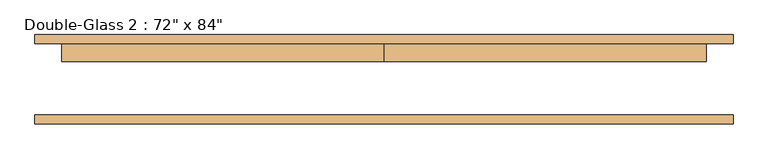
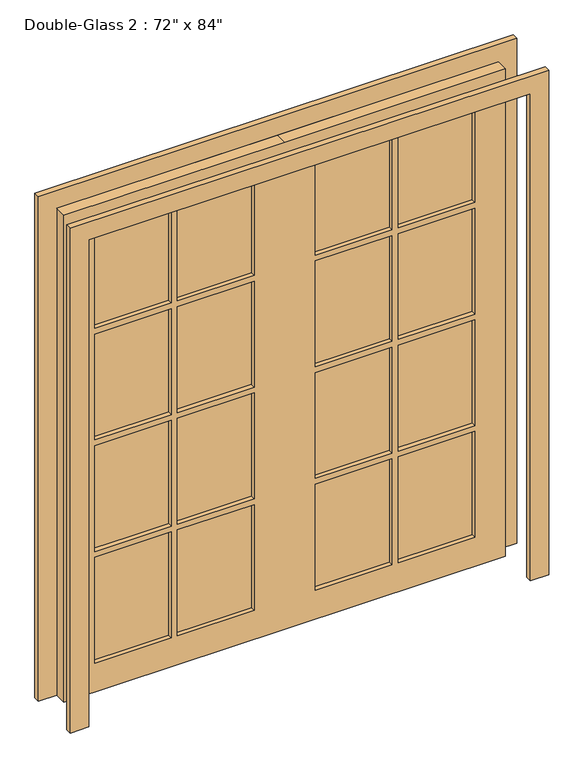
"""IFC4 building model written with IfcOpenShell, lengths in millimetres: door geometry."""

import ifcopenshell
import ifcopenshell.guid

model = None  # the IFC model being written
_history = None  # IfcOwnerHistory: only IFC2X3 demands one
_inside = {}  # id of a spatial element -> (the spatial element, [elements in it])
_under = {}  # id of a project, library or spatial element -> (it, [spatial elements below it])
_declared = {}  # id of a project -> (the project, [libraries it declares])
_typed = {}  # id of a type object -> (the type object, [elements of that type])
_made_of = {}  # id of a material, layer set ... -> (it, [elements and type objects made of it])


def new_model(schema):
    """Start an empty IFC model of exactly this schema.

    Asked for "IFC4X3", IfcOpenShell would pick the latest addendum, in which some entities
    have other attributes; the version numbers below select the first issue.
    IFC2X3 requires an IfcOwnerHistory on every rooted entity: one is made here for all.
    """
    global model, _history
    if schema == "IFC4X3":
        model = ifcopenshell.file(schema_version=(4, 3, 0, 0))
    else:
        model = ifcopenshell.file(schema=schema)
    _inside.clear()
    _under.clear()
    _declared.clear()
    _typed.clear()
    _made_of.clear()
    _history = None
    if model.schema == "IFC2X3":
        org = make("IfcOrganization", Name="unknown")
        user = make(
            "IfcPersonAndOrganization",
            ThePerson=make("IfcPerson", FamilyName="unknown"),
            TheOrganization=org,
        )
        app = make(
            "IfcApplication",
            ApplicationDeveloper=org,
            Version="unknown",
            ApplicationFullName="unknown",
            ApplicationIdentifier="unknown",
        )
        _history = make(
            "IfcOwnerHistory",
            OwningUser=user,
            OwningApplication=app,
            ChangeAction="ADDED",
            CreationDate=0,
        )
    return model


def make(cls, **values):
    """One entity of the class cls with the attributes given. An attribute that is None is left unset."""
    return model.create_entity(
        cls, **{name: value for name, value in values.items() if value is not None}
    )


def rooted(cls, **values):
    """An entity with a GlobalId (a new one), such as an element, a storey or a relation."""
    return make(cls, GlobalId=ifcopenshell.guid.new(), OwnerHistory=_history, **values)


def si_unit(unit_type, name, prefix=None):
    """IfcSIUnit, for example si_unit("LENGTHUNIT", "METRE", prefix="MILLI")."""
    return make("IfcSIUnit", UnitType=unit_type, Prefix=prefix, Name=name)


def assignment(units):
    """IfcUnitAssignment: the units of a project."""
    return None if units is None else make("IfcUnitAssignment", Units=units)


def point(xyz):
    """IfcCartesianPoint."""
    return None if xyz is None else make("IfcCartesianPoint", Coordinates=xyz)


def direction(xyz):
    """IfcDirection."""
    return None if xyz is None else make("IfcDirection", DirectionRatios=xyz)


def frame(location, z_axis=None, x_axis=None):
    """IfcAxis2Placement3D, a coordinate frame: its origin and axes. An axis left out is left unset."""
    return make(
        "IfcAxis2Placement3D",
        Location=point(location),
        Axis=direction(z_axis),
        RefDirection=direction(x_axis),
    )


def origin():
    """The frame at (0, 0, 0) with its axes left unset."""
    return frame((0.0, 0.0, 0.0))


def place(relative_to, where):
    """IfcLocalPlacement: puts the frame where relative to a parent placement (None: the world)."""
    return make(
        "IfcLocalPlacement", PlacementRelTo=relative_to, RelativePlacement=where
    )


def context(
    kind, dimensions, precision=None, world=None, true_north=None, identifier=None
):
    """IfcGeometricRepresentationContext, for example the 3D "Model" context."""
    return make(
        "IfcGeometricRepresentationContext",
        ContextIdentifier=identifier,
        ContextType=kind,
        CoordinateSpaceDimension=dimensions,
        Precision=precision,
        WorldCoordinateSystem=world,
        TrueNorth=true_north,
    )


def project(units=None, contexts=None):
    """IfcProject with its units and contexts."""
    return rooted(
        "IfcProject",
        Name="project",
        RepresentationContexts=contexts,
        UnitsInContext=assignment(units),
    )


def spatial(cls, under=None, at=None, **own):
    """A site, building, storey or space (cls), placed at a placement, below another one or the project."""
    s = rooted(cls, ObjectPlacement=at, **own)
    if under is not None:
        _under.setdefault(under.id(), (under, []))[1].append(s)
    return s


def polyline(points):
    """IfcPolyline through the points."""
    return make("IfcPolyline", Points=[point(p) for p in points])


def outline(outer, holes=None, kind="AREA"):
    """IfcArbitraryClosedProfileDef: a profile drawn as a closed curve; with holes, ...WithVoids."""
    if holes is None:
        return make("IfcArbitraryClosedProfileDef", ProfileType=kind, OuterCurve=outer)
    return make(
        "IfcArbitraryProfileDefWithVoids",
        ProfileType=kind,
        OuterCurve=outer,
        InnerCurves=holes,
    )


def extrude(swept, where, along, depth):
    """IfcExtrudedAreaSolid: the profile swept, set in the frame where, extruded along a direction by depth."""
    return make(
        "IfcExtrudedAreaSolid",
        SweptArea=swept,
        Position=where,
        ExtrudedDirection=direction(along),
        Depth=depth,
    )


def shape(context_of_items, identifier, shape_type, items):
    """IfcShapeRepresentation: the items that make up one representation, for example the "Body"."""
    return make(
        "IfcShapeRepresentation",
        ContextOfItems=context_of_items,
        RepresentationIdentifier=identifier,
        RepresentationType=shape_type,
        Items=items,
    )


def source(mapping_origin, context_of_items, identifier, shape_type, items):
    """IfcRepresentationMap: a shape defined once, which mapped items show again and again."""
    return make(
        "IfcRepresentationMap",
        MappingOrigin=mapping_origin,
        MappedRepresentation=shape(context_of_items, identifier, shape_type, items),
    )


def transform(
    local_origin,
    x_axis=None,
    y_axis=None,
    z_axis=None,
    scale=None,
    scale2=None,
    scale3=None,
    uniform=True,
):
    """IfcCartesianTransformationOperator3D, or its non-uniform kind. x_axis, y_axis, z_axis: its Axis1, 2, 3."""
    if uniform:
        return make(
            "IfcCartesianTransformationOperator3D",
            Axis1=direction(x_axis),
            Axis2=direction(y_axis),
            LocalOrigin=point(local_origin),
            Scale=scale,
            Axis3=direction(z_axis),
        )
    return make(
        "IfcCartesianTransformationOperator3DnonUniform",
        Axis1=direction(x_axis),
        Axis2=direction(y_axis),
        LocalOrigin=point(local_origin),
        Scale=scale,
        Axis3=direction(z_axis),
        Scale2=scale2,
        Scale3=scale3,
    )


def mapped(mapping_source, mapping_target):
    """IfcMappedItem: shows the shape of a source again, moved by a transform."""
    return make(
        "IfcMappedItem", MappingSource=mapping_source, MappingTarget=mapping_target
    )


def made_of(thing, what):
    """Note that an element or type object is made of a material, layer set ...; save() writes the relation."""
    if what is not None:
        _made_of.setdefault(what.id(), (what, []))[1].append(thing)
    return thing


def element(
    cls,
    number,
    at=None,
    inside=None,
    cuts=None,
    type_object=None,
    material=None,
    context=None,
    identifier="Body",
    shape_type=None,
    held_by="IfcProductDefinitionShape",
    body=None,
    shapes=None,
    **own,
):
    """One element of the class cls, such as IfcWall. Its Tag is "e" and its number.

    at: its placement. inside: the storey or other place that contains it. cuts: it is an
    opening in that element (IfcRelVoidsElement). A single representation is given by context,
    identifier, shape_type and body (its items); several are given by shapes. held_by: the class
    of the entity that holds the representations. save() writes the other relations.
    """
    e = rooted(cls, Tag="e%d" % number, ObjectPlacement=at, **own)
    if body is not None:
        shapes = [shape(context, identifier, shape_type, body)]
    if shapes is not None:
        e.Representation = make(held_by, Representations=shapes)
    if inside is not None:
        _inside.setdefault(inside.id(), (inside, []))[1].append(e)
    if cuts is not None:
        rooted(
            "IfcRelVoidsElement", RelatingBuildingElement=cuts, RelatedOpeningElement=e
        )
    if type_object is not None:
        _typed.setdefault(type_object.id(), (type_object, []))[1].append(e)
    return made_of(e, material)


def aggregate(whole, parts):
    """IfcRelAggregates: a whole, such as a stair, and the parts it consists of."""
    return rooted("IfcRelAggregates", RelatingObject=whole, RelatedObjects=parts)


def save(model, path):
    """Write the relations noted so far, then the file.

    IfcRelAggregates (storeys below a building ...), IfcRelContainedInSpatialStructure (elements
    in a storey), IfcRelDefinesByType, IfcRelAssociatesMaterial and IfcRelDeclares: one each for
    every whole, place, type object, material and project.
    """
    for whole, parts in _under.values():
        aggregate(whole, parts)
    for where, things in _inside.values():
        rooted(
            "IfcRelContainedInSpatialStructure",
            RelatedElements=things,
            RelatingStructure=where,
        )
    for kind, things in _typed.values():
        rooted("IfcRelDefinesByType", RelatedObjects=things, RelatingType=kind)
    for what, things in _made_of.values():
        rooted("IfcRelAssociatesMaterial", RelatedObjects=things, RelatingMaterial=what)
    for by, libraries in _declared.values():
        rooted("IfcRelDeclares", RelatingContext=by, RelatedDefinitions=libraries)
    model.write(path)


def door_62197d2a(model_context):
    return source(origin(), model_context, "Body", "SweptSolid", [
        extrude(outline(polyline([(469.9, 82.55), (787.4, 82.55), (787.4, 69.85), (469.9, 69.85), (469.9, 82.55)])), frame((0.0, 0.0, 1593.85), z_axis=(0.0, 0.0, 1.0), x_axis=(1.0, 0.0, 0.0)), (0.0, 0.0, 1.0), 463.55),
        extrude(outline(polyline([(127.0, 82.55), (444.5, 82.55), (444.5, 69.85), (127.0, 69.85), (127.0, 82.55)])), frame((0.0, 0.0, 1593.85), z_axis=(0.0, 0.0, 1.0), x_axis=(1.0, 0.0, 0.0)), (0.0, 0.0, 1.0), 463.55),
        extrude(outline(polyline([(-444.5, 82.55), (-127.0, 82.55), (-127.0, 69.85), (-444.5, 69.85), (-444.5, 82.55)])), frame((0.0, 0.0, 1593.85), z_axis=(0.0, 0.0, 1.0), x_axis=(1.0, 0.0, 0.0)), (0.0, 0.0, 1.0), 463.55),
        extrude(outline(polyline([(-787.4, 82.55), (-469.9, 82.55), (-469.9, 69.85), (-787.4, 69.85), (-787.4, 82.55)])), frame((0.0, 0.0, 1593.85), z_axis=(0.0, 0.0, 1.0), x_axis=(1.0, 0.0, 0.0)), (0.0, 0.0, 1.0), 463.55),
        extrude(outline(polyline([(-787.4, 82.55), (-469.9, 82.55), (-469.9, 69.85), (-787.4, 69.85), (-787.4, 82.55)])), frame((0.0, 0.0, 1104.9), z_axis=(0.0, 0.0, 1.0), x_axis=(1.0, 0.0, 0.0)), (0.0, 0.0, 1.0), 463.55),
        extrude(outline(polyline([(-444.5, 82.55), (-127.0, 82.55), (-127.0, 69.85), (-444.5, 69.85), (-444.5, 82.55)])), frame((0.0, 0.0, 1104.9), z_axis=(0.0, 0.0, 1.0), x_axis=(1.0, 0.0, 0.0)), (0.0, 0.0, 1.0), 463.55),
        extrude(outline(polyline([(127.0, 82.55), (444.5, 82.55), (444.5, 69.85), (127.0, 69.85), (127.0, 82.55)])), frame((0.0, 0.0, 1104.9), z_axis=(0.0, 0.0, 1.0), x_axis=(1.0, 0.0, 0.0)), (0.0, 0.0, 1.0), 463.55),
        extrude(outline(polyline([(469.9, 82.55), (787.4, 82.55), (787.4, 69.85), (469.9, 69.85), (469.9, 82.55)])), frame((0.0, 0.0, 1104.9), z_axis=(0.0, 0.0, 1.0), x_axis=(1.0, 0.0, 0.0)), (0.0, 0.0, 1.0), 463.55),
        extrude(outline(polyline([(469.9, 82.55), (787.4, 82.55), (787.4, 69.85), (469.9, 69.85), (469.9, 82.55)])), frame((0.0, 0.0, 615.95), z_axis=(0.0, 0.0, 1.0), x_axis=(1.0, 0.0, 0.0)), (0.0, 0.0, 1.0), 463.55),
        extrude(outline(polyline([(127.0, 82.55), (444.5, 82.55), (444.5, 69.85), (127.0, 69.85), (127.0, 82.55)])), frame((0.0, 0.0, 615.95), z_axis=(0.0, 0.0, 1.0), x_axis=(1.0, 0.0, 0.0)), (0.0, 0.0, 1.0), 463.55),
        extrude(outline(polyline([(-444.5, 82.55), (-127.0, 82.55), (-127.0, 69.85), (-444.5, 69.85), (-444.5, 82.55)])), frame((0.0, 0.0, 615.95), z_axis=(0.0, 0.0, 1.0), x_axis=(1.0, 0.0, 0.0)), (0.0, 0.0, 1.0), 463.55),
        extrude(outline(polyline([(-787.4, 82.55), (-469.9, 82.55), (-469.9, 69.85), (-787.4, 69.85), (-787.4, 82.55)])), frame((0.0, 0.0, 615.95), z_axis=(0.0, 0.0, 1.0), x_axis=(1.0, 0.0, 0.0)), (0.0, 0.0, 1.0), 463.55),
        extrude(outline(polyline([(469.9, 82.55), (787.4, 82.55), (787.4, 69.85), (469.9, 69.85), (469.9, 82.55)])), frame((0.0, 0.0, 127.0), z_axis=(0.0, 0.0, 1.0), x_axis=(1.0, 0.0, 0.0)), (0.0, 0.0, 1.0), 463.55),
        extrude(outline(polyline([(127.0, 82.55), (444.5, 82.55), (444.5, 69.85), (127.0, 69.85), (127.0, 82.55)])), frame((0.0, 0.0, 127.0), z_axis=(0.0, 0.0, 1.0), x_axis=(1.0, 0.0, 0.0)), (0.0, 0.0, 1.0), 463.55),
        extrude(outline(polyline([(-444.5, 82.55), (-127.0, 82.55), (-127.0, 69.85), (-444.5, 69.85), (-444.5, 82.55)])), frame((0.0, 0.0, 127.0), z_axis=(0.0, 0.0, 1.0), x_axis=(1.0, 0.0, 0.0)), (0.0, 0.0, 1.0), 463.55),
        extrude(outline(polyline([(-787.4, 82.55), (-469.9, 82.55), (-469.9, 69.85), (-787.4, 69.85), (-787.4, 82.55)])), frame((0.0, 0.0, 127.0), z_axis=(0.0, 0.0, 1.0), x_axis=(1.0, 0.0, 0.0)), (0.0, 0.0, 1.0), 463.55),
        extrude(outline(polyline([(2133.6, 0.0), (2133.6, -914.4), (0.0, -914.4), (0.0, 0.0), (0.0, 914.4), (2133.6, 914.4), (2133.6, 0.0)]), holes=[polyline([(2057.4, 469.9), (2057.4, 787.4), (1593.85, 787.4), (1593.85, 469.9), (2057.4, 469.9)]), polyline([(2057.4, 127.0), (2057.4, 444.5), (1593.85, 444.5), (1593.85, 127.0), (2057.4, 127.0)]), polyline([(1568.45, 469.9), (1568.45, 787.4), (1104.9, 787.4), (1104.9, 469.9), (1568.45, 469.9)]), polyline([(1568.45, 127.0), (1568.45, 444.5), (1104.9, 444.5), (1104.9, 127.0), (1568.45, 127.0)]), polyline([(1079.5, 469.9), (1079.5, 787.4), (615.95, 787.4), (615.95, 469.9), (1079.5, 469.9)]), polyline([(1079.5, 127.0), (1079.5, 444.5), (615.95, 444.5), (615.95, 127.0), (1079.5, 127.0)]), polyline([(590.55, 469.9), (590.55, 787.4), (127.0, 787.4), (127.0, 469.9), (590.55, 469.9)]), polyline([(590.55, 127.0), (590.55, 444.5), (127.0, 444.5), (127.0, 127.0), (590.55, 127.0)]), polyline([(2057.4, -444.5), (2057.4, -127.0), (1593.85, -127.0), (1593.85, -444.5), (2057.4, -444.5)]), polyline([(1568.45, -444.5), (1568.45, -127.0), (1104.9, -127.0), (1104.9, -444.5), (1568.45, -444.5)]), polyline([(1568.45, -469.9), (1104.9, -469.9), (1104.9, -787.4), (1568.45, -787.4), (1568.45, -469.9)]), polyline([(1079.5, -444.5), (1079.5, -127.0), (615.95, -127.0), (615.95, -444.5), (1079.5, -444.5)]), polyline([(1079.5, -469.9), (615.95, -469.9), (615.95, -787.4), (1079.5, -787.4), (1079.5, -469.9)]), polyline([(590.55, -444.5), (590.55, -127.0), (127.0, -127.0), (127.0, -444.5), (590.55, -444.5)]), polyline([(590.55, -787.4), (590.55, -469.9), (127.0, -469.9), (127.0, -787.4), (590.55, -787.4)]), polyline([(1593.85, -469.9), (1593.85, -787.4), (2057.4, -787.4), (2057.4, -469.9), (1593.85, -469.9)])]), frame((0.0, 50.8, 0.0), z_axis=(0.0, 1.0, 0.0), x_axis=(0.0, 0.0, 1.0)), (0.0, 0.0, 1.0), 50.8),
        extrude(outline(polyline([(2133.6, -914.4), (2133.6, 914.4), (0.0, 914.4), (0.0, 990.6), (2209.8, 990.6), (2209.8, -990.6), (0.0, -990.6), (0.0, -914.4), (2133.6, -914.4)])), frame((0.0, -127.0, 0.0), z_axis=(0.0, 1.0, 0.0), x_axis=(0.0, 0.0, 1.0)), (0.0, 0.0, 1.0), 25.4),
        extrude(outline(polyline([(2133.6, -914.4), (2133.6, 914.4), (0.0, 914.4), (0.0, 990.6), (2209.8, 990.6), (2209.8, -990.6), (0.0, -990.6), (0.0, -914.4), (2133.6, -914.4)])), frame((0.0, 101.6, 0.0), z_axis=(0.0, 1.0, 0.0), x_axis=(0.0, 0.0, 1.0)), (0.0, 0.0, 1.0), 25.4),
    ])


if __name__ == "__main__":
    model = new_model("IFC4")
    model_context = context("Model", 3, world=origin())
    ifc_project = project(units=[si_unit("LENGTHUNIT", "METRE", prefix="MILLI")], contexts=[model_context])
    site = spatial("IfcSite", under=ifc_project)
    building = spatial("IfcBuilding", under=site)
    placement = place(None, origin())
    door_shape = door_62197d2a(model_context)
    element("IfcDoor", 1, ObjectType="Double-Glass 2 : 72\" x 84\"", at=placement, inside=building, context=model_context, shape_type="MappedRepresentation", body=[
        mapped(door_shape, transform((0.0, 0.0, 0.0), x_axis=(1.0, 0.0, 0.0), y_axis=(0.0, 1.0, 0.0), z_axis=(0.0, 0.0, 1.0))),
    ])
    save(model, "model.ifc")
